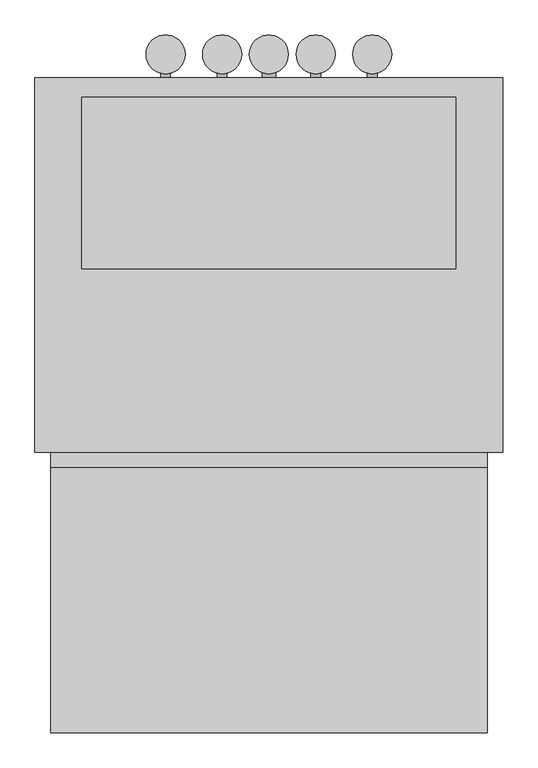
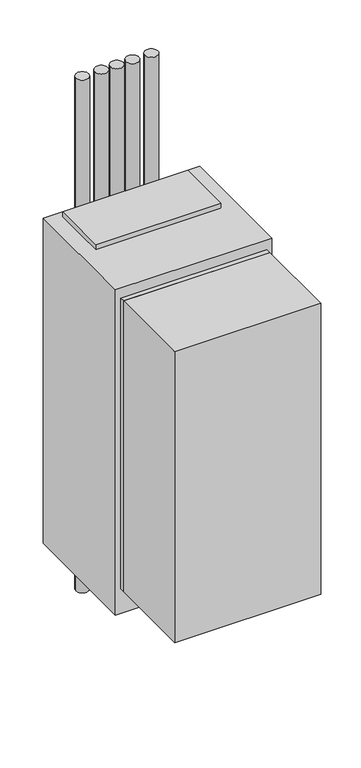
"""IFC4 building model written with IfcOpenShell, lengths in millimetres: proxy geometry, Concealed_Modular_Fan_Coil_Unit_-_42SMA_-_CARRIER_-_4-Pipe_-_WithRisers_2022 : Size 20 - 277v/60Hz/1Ph - 4/1 Coil."""

from ifc_helpers import new_model, si_unit, point, frame, frame_2d, origin, origin_with_axes, place, context, project, spatial, polyline, circle_curve, trimmed, segment, composite_curve, outline, extrude, source, transform, mapped, element, save


def mechanical_equipment_c41c9c13(model_context):
    return source(origin(), model_context, "Body", "SweptSolid", [
        extrude(outline(composite_curve([segment(trimmed(circle_curve(frame_2d((365.125, 282.575)), 31.75), [point((333.375, 282.575))], [point((396.875, 282.575))], False, "CARTESIAN"), True, "CONTINUOUS"), segment(trimmed(circle_curve(frame_2d((365.125, 282.575)), 31.75), [point((396.875, 282.575))], [point((333.375, 282.575))], False, "CARTESIAN"), True, "CONTINUOUS")], self_intersect=False)), frame((0.0, 0.0, -330.2), z_axis=(0.0, 0.0, 1.0), x_axis=(1.0, 0.0, 0.0)), (0.0, 0.0, 1.0), 2641.6),
        extrude(outline(composite_curve([segment(trimmed(circle_curve(frame_2d((457.2, 282.575)), 31.75), [point((425.45, 282.575))], [point((488.95, 282.575))], False, "CARTESIAN"), True, "CONTINUOUS"), segment(trimmed(circle_curve(frame_2d((457.2, 282.575)), 31.75), [point((488.95, 282.575))], [point((425.45, 282.575))], False, "CARTESIAN"), True, "CONTINUOUS")], self_intersect=False)), frame((0.0, 0.0, -330.2), z_axis=(0.0, 0.0, 1.0), x_axis=(1.0, 0.0, 0.0)), (0.0, 0.0, 1.0), 2641.6),
        extrude(outline(composite_curve([segment(trimmed(circle_curve(frame_2d((533.4, 282.575)), 31.75), [point((501.65, 282.575))], [point((565.15, 282.575))], False, "CARTESIAN"), True, "CONTINUOUS"), segment(trimmed(circle_curve(frame_2d((533.4, 282.575)), 31.75), [point((565.15, 282.575))], [point((501.65, 282.575))], False, "CARTESIAN"), True, "CONTINUOUS")], self_intersect=False)), frame((0.0, 0.0, -330.2), z_axis=(0.0, 0.0, 1.0), x_axis=(1.0, 0.0, 0.0)), (0.0, 0.0, 1.0), 2641.6),
        extrude(outline(composite_curve([segment(trimmed(circle_curve(frame_2d((609.6, 282.575)), 31.75), [point((577.85, 282.575))], [point((641.35, 282.575))], False, "CARTESIAN"), True, "CONTINUOUS"), segment(trimmed(circle_curve(frame_2d((609.6, 282.575)), 31.75), [point((641.35, 282.575))], [point((577.85, 282.575))], False, "CARTESIAN"), True, "CONTINUOUS")], self_intersect=False)), frame((0.0, 0.0, -330.2), z_axis=(0.0, 0.0, 1.0), x_axis=(1.0, 0.0, 0.0)), (0.0, 0.0, 1.0), 2641.6),
        extrude(outline(composite_curve([segment(trimmed(circle_curve(frame_2d((701.675, 282.575)), 31.75), [point((669.925, 282.575))], [point((733.425, 282.575))], False, "CARTESIAN"), True, "CONTINUOUS"), segment(trimmed(circle_curve(frame_2d((701.675, 282.575)), 31.75), [point((733.425, 282.575))], [point((669.925, 282.575))], False, "CARTESIAN"), True, "CONTINUOUS")], self_intersect=False)), frame((0.0, 0.0, -330.2), z_axis=(0.0, 0.0, 1.0), x_axis=(1.0, 0.0, 0.0)), (0.0, 0.0, 1.0), 2641.6),
        extrude(outline(polyline([(889.0, -822.325), (177.8, -822.325), (177.8, -390.525), (889.0, -390.525), (889.0, -822.325)])), frame((0.0, 0.0, 127.0), z_axis=(0.0, 0.0, 1.0), x_axis=(1.0, 0.0, 0.0)), (0.0, 0.0, 1.0), 1498.6),
        extrude(outline(composite_curve([segment(trimmed(circle_curve(frame_2d((990.6, 701.675)), 7.9375), [point((990.6, 693.7375))], [point((990.6, 709.6125))], False, "CARTESIAN"), True, "CONTINUOUS"), segment(trimmed(circle_curve(frame_2d((990.6, 701.675)), 7.9375), [point((990.6, 709.6125))], [point((990.6, 693.7375))], False, "CARTESIAN"), True, "CONTINUOUS")], self_intersect=False)), frame((0.0, 244.475, 0.0), z_axis=(0.0, 1.0, 0.0), x_axis=(0.0, 0.0, 1.0)), (0.0, 0.0, 1.0), 50.8),
        extrude(outline(composite_curve([segment(trimmed(circle_curve(frame_2d((990.6, 609.6)), 7.9375), [point((990.6, 601.6625))], [point((990.6, 617.5375))], False, "CARTESIAN"), True, "CONTINUOUS"), segment(trimmed(circle_curve(frame_2d((990.6, 609.6)), 7.9375), [point((990.6, 617.5375))], [point((990.6, 601.6625))], False, "CARTESIAN"), True, "CONTINUOUS")], self_intersect=False)), frame((0.0, 244.475, 0.0), z_axis=(0.0, 1.0, 0.0), x_axis=(0.0, 0.0, 1.0)), (0.0, 0.0, 1.0), 50.8),
        extrude(outline(composite_curve([segment(trimmed(circle_curve(frame_2d((990.6, 457.2)), 7.9375), [point((990.6, 449.2625))], [point((990.6, 465.1375))], False, "CARTESIAN"), True, "CONTINUOUS"), segment(trimmed(circle_curve(frame_2d((990.6, 457.2)), 7.9375), [point((990.6, 465.1375))], [point((990.6, 449.2625))], False, "CARTESIAN"), True, "CONTINUOUS")], self_intersect=False)), frame((0.0, 244.475, 0.0), z_axis=(0.0, 1.0, 0.0), x_axis=(0.0, 0.0, 1.0)), (0.0, 0.0, 1.0), 50.8),
        extrude(outline(composite_curve([segment(trimmed(circle_curve(frame_2d((990.6, 365.125)), 7.9375), [point((990.6, 357.1875))], [point((990.6, 373.0625))], False, "CARTESIAN"), True, "CONTINUOUS"), segment(trimmed(circle_curve(frame_2d((990.6, 365.125)), 7.9375), [point((990.6, 373.0625))], [point((990.6, 357.1875))], False, "CARTESIAN"), True, "CONTINUOUS")], self_intersect=False)), frame((0.0, 244.475, 0.0), z_axis=(0.0, 1.0, 0.0), x_axis=(0.0, 0.0, 1.0)), (0.0, 0.0, 1.0), 50.8),
        extrude(outline(composite_curve([segment(trimmed(circle_curve(frame_2d((76.2, 533.4)), 11.1125), [point((76.2, 522.2875))], [point((76.2, 544.5125))], False, "CARTESIAN"), True, "CONTINUOUS"), segment(trimmed(circle_curve(frame_2d((76.2, 533.4)), 11.1125), [point((76.2, 544.5125))], [point((76.2, 522.2875))], False, "CARTESIAN"), True, "CONTINUOUS")], self_intersect=False)), frame((0.0, 244.475, 0.0), z_axis=(0.0, 1.0, 0.0), x_axis=(0.0, 0.0, 1.0)), (0.0, 0.0, 1.0), 50.8),
        extrude(outline(polyline([(838.2, 212.725), (838.2, -66.675), (228.6, -66.675), (228.6, 212.725), (838.2, 212.725)])), frame((0.0, 0.0, 1676.4), z_axis=(0.0, 0.0, 1.0), x_axis=(1.0, 0.0, 0.0)), (0.0, 0.0, 1.0), 25.4),
        extrude(outline(polyline([(889.0, -390.525), (177.8, -390.525), (177.8, -365.125), (889.0, -365.125), (889.0, -390.525)])), frame((0.0, 0.0, 127.0), z_axis=(0.0, 0.0, 1.0), x_axis=(1.0, 0.0, 0.0)), (0.0, 0.0, 1.0), 1498.6),
        extrude(outline(polyline([(914.4, 244.475), (914.4, -365.125), (152.4, -365.125), (152.4, 244.475), (914.4, 244.475)])), origin_with_axes(), (0.0, 0.0, 1.0), 1676.4),
    ])


if __name__ == "__main__":
    model = new_model("IFC4")
    model_context = context("Model", 3, world=origin())
    ifc_project = project(units=[si_unit("LENGTHUNIT", "METRE", prefix="MILLI")], contexts=[model_context])
    site = spatial("IfcSite", under=ifc_project)
    building = spatial("IfcBuilding", under=site)
    placement = place(None, origin())
    mechanical_equipment_shape = mechanical_equipment_c41c9c13(model_context)
    element("IfcBuildingElementProxy", 1, Name="Concealed_Modular_Fan_Coil_Unit_-_42SMA_-_CARRIER_-_4-Pipe_-_WithRisers_2022 : Size 20 - 277v/60Hz/1Ph - 4/1 Coil", ObjectType="Concealed_Modular_Fan_Coil_Unit_-_42SMA_-_CARRIER_-_4-Pipe_-_WithRisers_2022 : Size 20 - 277v/60Hz/1Ph - 4/1 Coil", at=placement, inside=building, context=model_context, shape_type="MappedRepresentation", body=[
        mapped(mechanical_equipment_shape, transform((0.0, 0.0, 0.0), x_axis=(1.0, 0.0, 0.0), y_axis=(0.0, 1.0, 0.0), z_axis=(0.0, 0.0, 1.0))),
    ])
    save(model, "model.ifc")
